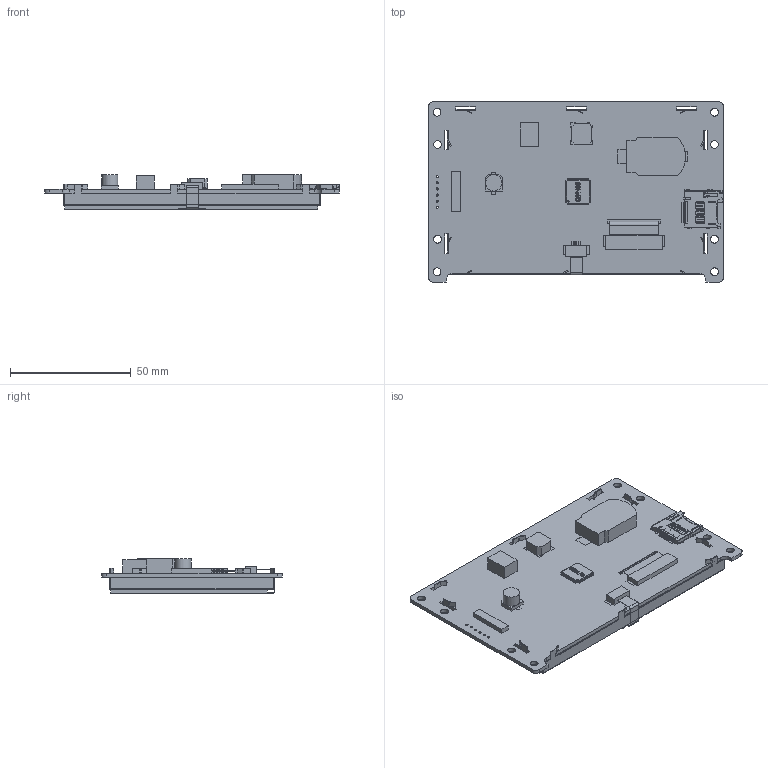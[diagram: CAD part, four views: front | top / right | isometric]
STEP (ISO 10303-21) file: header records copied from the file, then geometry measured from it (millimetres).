
FILE_DESCRIPTION(/* description */ (''),/* implementation_level */ '2;1');
FILE_NAME(/* name */ '',/* time_stamp */ '2022-05-18T09:11:00+08:00',/* author */ (''),/* organization */ (''),/* preprocessor_version */ 'ST-DEVELOPER v11',/* originating_system */ 'SIEMENS PLM Software NX 7.5',/* authorisation */ '');
FILE_SCHEMA (('AP203_CONFIGURATION_CONTROLLED_3D_DESIGN_OF_MECHANICAL_PARTS_AND_ASSEMBLIES_MIM_LF'));
Products named in the file (1): SDWb043T84T_stp
Bounding box: 121.9 x 74.7 x 14.26 mm (x, y, z)
Volume: 28879.1 mm3; surface area: 46612.3 mm2
Topology: 19 solids, 19 shells, 2310 faces, 6668 edges, 4385 vertices
Faces by surface type: plane 1862, cylinder 440, bspline 7, cone 1
Full cylindrical faces by diameter (mm): 0.889 x6, 3.2 x8, 6.776 x1
Entity records: 77399 total; most frequent: CARTESIAN_POINT 13761, ORIENTED_EDGE 13292, DIRECTION 12051, EDGE_CURVE 6646, LINE 5727, VECTOR 5727, VERTEX_POINT 4378, AXIS2_PLACEMENT_3D 3162
